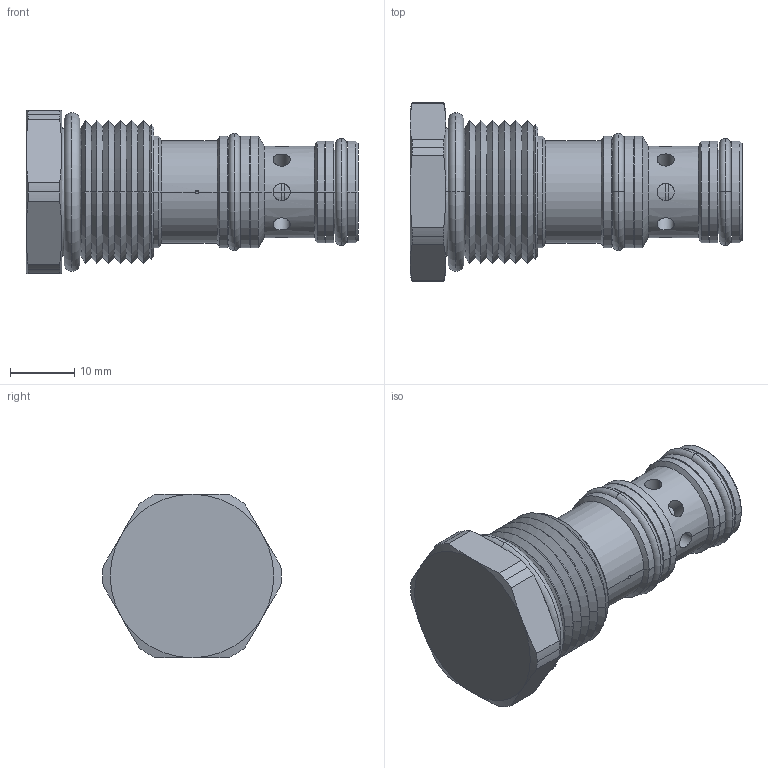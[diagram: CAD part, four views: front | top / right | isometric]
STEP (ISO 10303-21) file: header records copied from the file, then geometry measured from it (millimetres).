
FILE_DESCRIPTION((''),'2;1');
FILE_NAME('U:\Solid model CD\Solid model full\Mechanical\STEP\DFPCR00-3D Full.stp','2008-07-29T09:07:03',('Dan'),(''),'Autodesk Inventor 9','Autodesk Inventor 9','');
FILE_SCHEMA(('AUTOMOTIVE_DESIGN { 1 0 10303 214 1 1 1 1 }'));
Length unit declared in the file: inch
Products named in the file (7): DFPCR00-3D Full; DFPCR00-3D Full1; DFPCR00-3D Full2; DFPCR00-3D Full3; DFPCR00-3D Full4; DFPCR00-3D Full5; DFPCR00-3D Full6
Assembly tree (6 placements, depth 2):
  DFPCR00-3D Full
    DFPCR00-3D Full1
    DFPCR00-3D Full2
    DFPCR00-3D Full3
    DFPCR00-3D Full4
    DFPCR00-3D Full5
    DFPCR00-3D Full6
Bounding box: 51.56 x 27.76 x 25.4 mm (x, y, z)
Volume: 13567 mm3; surface area: 7424.3 mm2
Topology: 6 solids, 7 shells, 181 faces, 421 edges, 259 vertices
Faces by surface type: cylinder 84, cone 52, plane 29, torus 12, bspline 4
Entity records: 6122 total; most frequent: CARTESIAN_POINT 1798, DIRECTION 920, ORIENTED_EDGE 842, EDGE_CURVE 421, AXIS2_PLACEMENT_3D 393, VERTEX_POINT 259, EDGE_LOOP 212, CIRCLE 203
